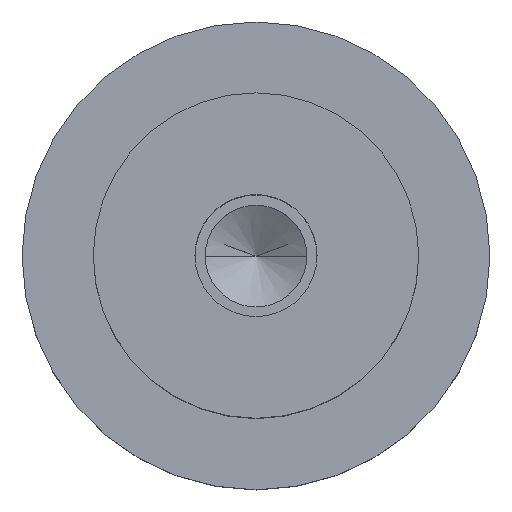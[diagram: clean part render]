
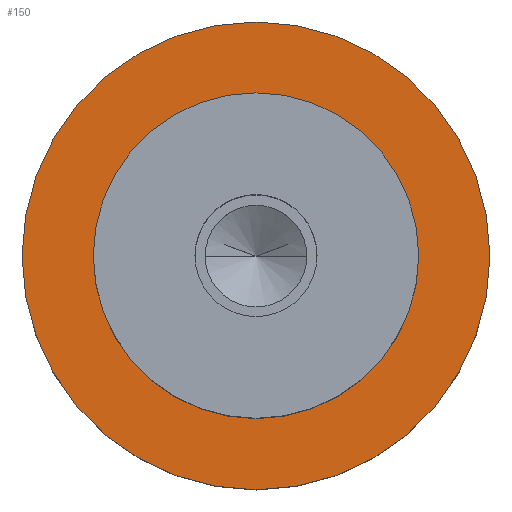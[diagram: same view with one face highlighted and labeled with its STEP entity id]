
A CAD part, top view. The second image highlights one B-rep face of the part: STEP entity #150.
In plain terms, the highlighted planar face has unit normal (0, 0, 1).
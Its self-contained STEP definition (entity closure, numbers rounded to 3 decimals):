
#101=PLANE('',#564);
#110=FACE_BOUND('',#211,.T.);
#111=FACE_BOUND('',#212,.T.);
#150=ADVANCED_FACE('',(#110,#111),#101,.T.);
#211=EDGE_LOOP('',(#319,#320));
#212=EDGE_LOOP('',(#321,#322));
#247=CIRCLE('',#558,8.);
#248=CIRCLE('',#560,8.);
#249=CIRCLE('',#562,11.5);
#250=CIRCLE('',#563,11.5);
#319=ORIENTED_EDGE('',*,*,#455,.F.);
#320=ORIENTED_EDGE('',*,*,#456,.F.);
#321=ORIENTED_EDGE('',*,*,#454,.T.);
#322=ORIENTED_EDGE('',*,*,#452,.T.);
#406=VERTEX_POINT('',#812);
#407=VERTEX_POINT('',#814);
#408=VERTEX_POINT('',#820);
#409=VERTEX_POINT('',#821);
#452=EDGE_CURVE('',#407,#406,#247,.T.);
#454=EDGE_CURVE('',#406,#407,#248,.T.);
#455=EDGE_CURVE('',#408,#409,#249,.T.);
#456=EDGE_CURVE('',#409,#408,#250,.T.);
#558=AXIS2_PLACEMENT_3D('',#813,#660,#661);
#560=AXIS2_PLACEMENT_3D('',#817,#665,#666);
#562=AXIS2_PLACEMENT_3D('',#819,#669,#670);
#563=AXIS2_PLACEMENT_3D('',#822,#671,#672);
#564=AXIS2_PLACEMENT_3D('',#823,#673,#674);
#660=DIRECTION('',(0.,0.,-1.));
#661=DIRECTION('',(0.,1.,0.));
#665=DIRECTION('',(0.,0.,-1.));
#666=DIRECTION('',(0.,-1.,0.));
#669=DIRECTION('',(0.,0.,-1.));
#670=DIRECTION('',(0.,1.,0.));
#671=DIRECTION('',(0.,0.,-1.));
#672=DIRECTION('',(0.,-1.,0.));
#673=DIRECTION('',(0.,0.,1.));
#674=DIRECTION('',(0.,-1.,0.));
#812=CARTESIAN_POINT('',(-8.,0.,0.));
#813=CARTESIAN_POINT('',(0.,0.,0.));
#814=CARTESIAN_POINT('',(8.,0.,0.));
#817=CARTESIAN_POINT('',(0.,0.,0.));
#819=CARTESIAN_POINT('',(0.,0.,0.));
#820=CARTESIAN_POINT('',(11.5,0.,0.));
#821=CARTESIAN_POINT('',(-11.5,0.,0.));
#822=CARTESIAN_POINT('',(0.,0.,0.));
#823=CARTESIAN_POINT('',(0.,0.,0.));
